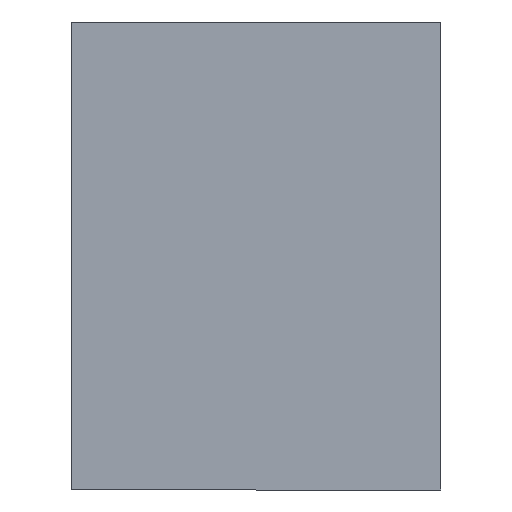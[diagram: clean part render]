
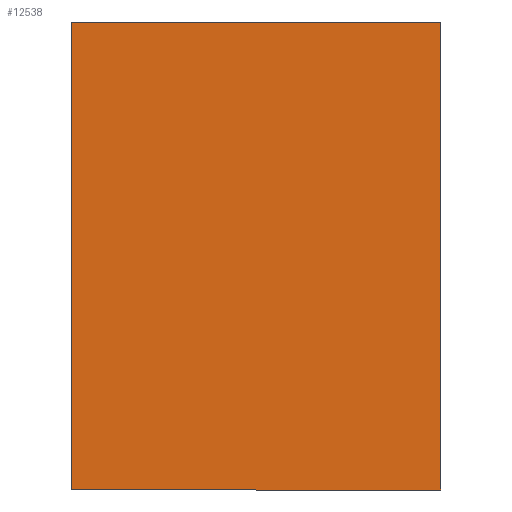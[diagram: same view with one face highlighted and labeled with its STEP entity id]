
A CAD part, top view. The second image highlights one B-rep face of the part: STEP entity #12538.
In plain terms, the highlighted planar face has unit normal (0, 0, 1) as drawn and (-1, 0, 0) by its records, which use the part's own axes.
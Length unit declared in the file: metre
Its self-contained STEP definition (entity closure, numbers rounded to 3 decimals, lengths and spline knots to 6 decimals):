
#2732=ORIENTED_EDGE('',*,*,#5680,.F.);
#2733=ORIENTED_EDGE('',*,*,#5688,.F.);
#2734=ORIENTED_EDGE('',*,*,#5686,.T.);
#2735=ORIENTED_EDGE('',*,*,#5689,.T.);
#5680=EDGE_CURVE('',#7290,#7291,#8385,.T.);
#5686=EDGE_CURVE('',#7295,#7294,#8391,.T.);
#5688=EDGE_CURVE('',#7295,#7290,#8393,.T.);
#5689=EDGE_CURVE('',#7294,#7291,#8394,.T.);
#7290=VERTEX_POINT('',#21385);
#7291=VERTEX_POINT('',#21387);
#7294=VERTEX_POINT('',#21396);
#7295=VERTEX_POINT('',#21398);
#8385=LINE('',#21386,#9392);
#8391=LINE('',#21397,#9398);
#8393=LINE('',#21401,#9400);
#8394=LINE('',#21402,#9401);
#9392=VECTOR('',#15948,1.);
#9398=VECTOR('',#15956,1.);
#9400=VECTOR('',#15960,1.);
#9401=VECTOR('',#15961,1.);
#10433=EDGE_LOOP('',(#2732,#2733,#2734,#2735));
#11367=FACE_BOUND('',#10433,.T.);
#12048=PLANE('',#13654);
#12538=ADVANCED_FACE('',(#11367),#12048,.F.);
#13654=AXIS2_PLACEMENT_3D('',#21400,#15958,#15959);
#15948=DIRECTION('',(0.,0.,-1.));
#15956=DIRECTION('',(0.,0.,-1.));
#15958=DIRECTION('',(1.,0.,0.));
#15959=DIRECTION('',(0.,-1.,0.));
#15960=DIRECTION('',(0.,-1.,0.));
#15961=DIRECTION('',(0.,-1.,0.));
#21385=CARTESIAN_POINT('',(-0.016784,-0.031394,0.024786));
#21386=CARTESIAN_POINT('',(-0.016784,-0.031394,0.024788));
#21387=CARTESIAN_POINT('',(-0.016784,-0.031394,-0.024786));
#21396=CARTESIAN_POINT('',(-0.016784,0.031394,-0.024786));
#21397=CARTESIAN_POINT('',(-0.016784,0.031394,0.024788));
#21398=CARTESIAN_POINT('',(-0.016784,0.031394,0.024786));
#21400=CARTESIAN_POINT('',(-0.016784,0.,0.024788));
#21401=CARTESIAN_POINT('',(-0.016784,0.,0.024786));
#21402=CARTESIAN_POINT('',(-0.016784,0.,-0.024786));
